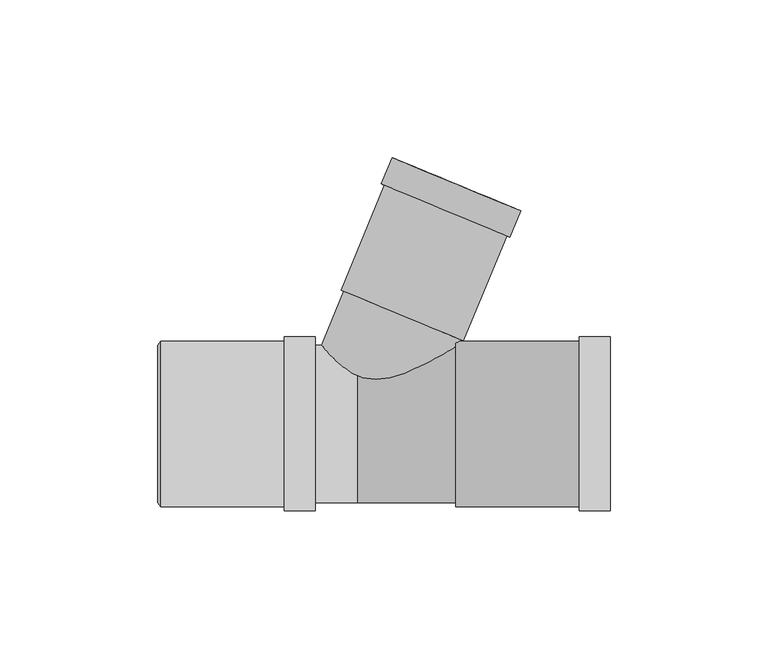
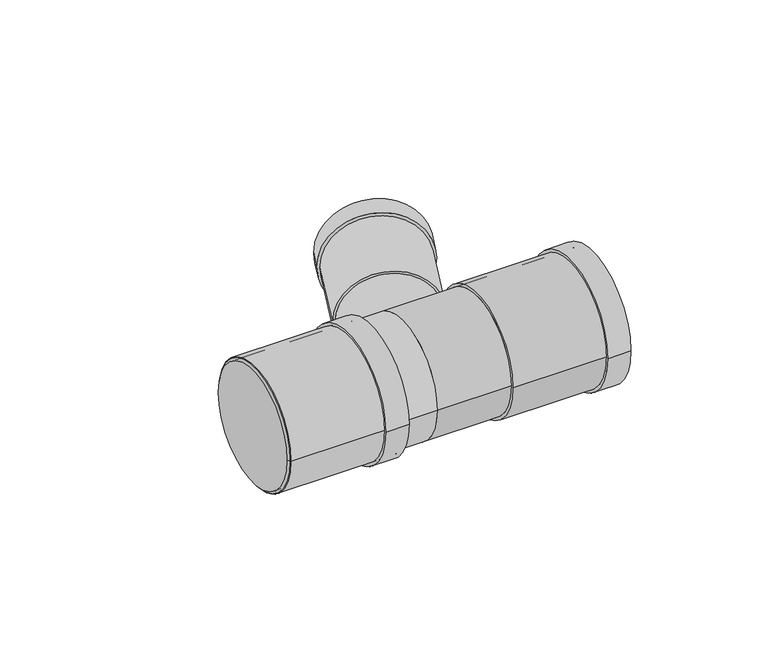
"""IFC4 building model written with IfcOpenShell, lengths in millimetres: pipe fitting geometry, Superdrain HTEA Branch : Superdrain HTEA Branch."""

from ifc_helpers import new_model, si_unit, point, frame, origin, origin_2d, place, context, project, spatial, polyline, circle_curve, trimmed, segment, composite_curve, outline, extrude, source, transform, mapped, element, save
from ifc_brep_helpers import plane_surface, revolved_surface, advanced_brep


def pipe_fitting_50b450b3(model_context):
    return source(origin(), model_context, "Body", "SolidModel", [
        extrude(outline(composite_curve([segment(trimmed(circle_curve(origin_2d(), 26.25), [point((26.25, 0.0))], [point((-26.25, 0.0))], False, "CARTESIAN"), True, "CONTINUOUS"), segment(trimmed(circle_curve(origin_2d(), 26.25), [point((-26.25, 0.0))], [point((26.25, 0.0))], False, "CARTESIAN"), True, "CONTINUOUS")], self_intersect=False), holes=[composite_curve([segment(trimmed(circle_curve(origin_2d(), 25.0), [point((25.0, 0.0))], [point((-25.0, 0.0))], True, "CARTESIAN"), True, "CONTINUOUS"), segment(trimmed(circle_curve(origin_2d(), 25.0), [point((-25.0, 0.0))], [point((25.0, 0.0))], True, "CARTESIAN"), True, "CONTINUOUS")], self_intersect=False)]), frame((-62.3, 0.0, 0.0), z_axis=(1.0, 0.0, 0.0), x_axis=(0.0, 1.0, 0.0)), (0.0, 0.0, 1.0), 49.0),
        extrude(outline(composite_curve([segment(trimmed(circle_curve(origin_2d(), 27.5625), [point((27.5625, 0.0))], [point((-27.5625, 0.0))], False, "CARTESIAN"), True, "CONTINUOUS"), segment(trimmed(circle_curve(origin_2d(), 27.5625), [point((-27.5625, 0.0))], [point((27.5625, 0.0))], False, "CARTESIAN"), True, "CONTINUOUS")], self_intersect=False), holes=[composite_curve([segment(trimmed(circle_curve(origin_2d(), 25.0), [point((25.0, 0.0))], [point((-25.0, 0.0))], True, "CARTESIAN"), True, "CONTINUOUS"), segment(trimmed(circle_curve(origin_2d(), 25.0), [point((-25.0, 0.0))], [point((25.0, 0.0))], True, "CARTESIAN"), True, "CONTINUOUS")], self_intersect=False)]), frame((-23.1, 0.0, 0.0), z_axis=(1.0, 0.0, 0.0), x_axis=(0.0, 1.0, 0.0)), (0.0, 0.0, 1.0), 9.8),
        advanced_brep(
        [(-63.3, 25.0, 0.0), (-63.3, -25.0, 0.0), (-62.3, 26.25, 0.0), (-62.3, -26.25, 0.0)],
        [
            (0, 1, circle_curve(frame((-63.3, 0.0, 0.0), z_axis=(-1.0, 0.0, 0.0), x_axis=(0.0, 1.0000000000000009, 0.0)), 25.0)),
            (1, 0, circle_curve(frame((-63.3, 0.0, 0.0), z_axis=(-1.0, 0.0, 0.0), x_axis=(0.0, -1.0000000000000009, 0.0)), 25.0)),
            (2, 3, circle_curve(frame((-62.3, 0.0, 0.0), z_axis=(1.0, 0.0, 0.0), x_axis=(0.0, -1.0000000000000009, 0.0)), 26.25)),
            (3, 2, circle_curve(frame((-62.3, 0.0, 0.0), z_axis=(1.0, 0.0, 0.0), x_axis=(0.0, 1.0000000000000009, 0.0)), 26.25)),
            (3, 1),
            (0, 2),
        ],
        [
            plane_surface(frame((-63.3, 0.0, 0.0), z_axis=(-1.0, 0.0, 0.0), x_axis=(0.0, 0.0, -1.0))),
            plane_surface(frame((-62.3, 0.0, 0.0), z_axis=(1.0, 0.0, 0.0), x_axis=(0.0, 0.0, -1.0))),
            revolved_surface(polyline([(-63.3, 24.999999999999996, 0.0), (-62.3, 26.25, 0.0)]), (-83.3, 0.0, 0.0), (1.0000000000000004, 0.0, 0.0)),
            revolved_surface(polyline([(-63.3, -24.999999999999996, 0.0), (-62.3, -26.25, 0.0)]), (-83.3, 0.0, 0.0), (1.0000000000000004, 0.0, 0.0)),
        ],
        [
            (0, [[1, 2]]),
            (1, [[3, 4]]),
            (2, [[-4, 5, -1, 6]]),
            (3, [[-3, -6, -2, -5]]),
        ],
    ),
        extrude(outline(composite_curve([segment(trimmed(circle_curve(origin_2d(), 26.25), [point((-26.25, 0.0))], [point((26.25, 0.0))], False, "CARTESIAN"), True, "CONTINUOUS"), segment(trimmed(circle_curve(origin_2d(), 26.25), [point((26.25, 0.0))], [point((-26.25, 0.0))], False, "CARTESIAN"), True, "CONTINUOUS")], self_intersect=False), holes=[composite_curve([segment(trimmed(circle_curve(origin_2d(), 25.0), [point((25.0, 0.0))], [point((-25.0, 0.0))], True, "CARTESIAN"), True, "CONTINUOUS"), segment(trimmed(circle_curve(origin_2d(), 25.0), [point((-25.0, 0.0))], [point((25.0, 0.0))], True, "CARTESIAN"), True, "CONTINUOUS")], self_intersect=False)]), frame((31.2, 0.0, 0.0), z_axis=(1.0, 0.0, 0.0), x_axis=(0.0, 1.0, 0.0)), (0.0, 0.0, 1.0), 49.0),
        extrude(outline(composite_curve([segment(trimmed(circle_curve(origin_2d(), 27.5625), [point((27.5625, 0.0))], [point((-27.5625, 0.0))], False, "CARTESIAN"), True, "CONTINUOUS"), segment(trimmed(circle_curve(origin_2d(), 27.5625), [point((-27.5625, 0.0))], [point((27.5625, 0.0))], False, "CARTESIAN"), True, "CONTINUOUS")], self_intersect=False), holes=[composite_curve([segment(trimmed(circle_curve(origin_2d(), 25.0), [point((25.0, 0.0))], [point((-25.0, 0.0))], True, "CARTESIAN"), True, "CONTINUOUS"), segment(trimmed(circle_curve(origin_2d(), 25.0), [point((-25.0, 0.0))], [point((25.0, 0.0))], True, "CARTESIAN"), True, "CONTINUOUS")], self_intersect=False)]), frame((70.4, 0.0, 0.0), z_axis=(1.0, 0.0, 0.0), x_axis=(0.0, 1.0, 0.0)), (0.0, 0.0, 1.0), 9.8),
        extrude(outline(composite_curve([segment(trimmed(circle_curve(origin_2d(), 20.0), [point((0.0, 20.0))], [point((0.0, -20.0))], False, "CARTESIAN"), True, "CONTINUOUS"), segment(trimmed(circle_curve(origin_2d(), 20.0), [point((0.0, -20.0))], [point((0.0, 20.0))], False, "CARTESIAN"), True, "CONTINUOUS")], self_intersect=False)), frame((0.0, 0.0, 0.0), z_axis=(0.3826834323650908, 0.9238795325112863, 0.0), x_axis=(0.0, 0.0, 1.0)), (0.0, 0.0, 1.0), 37.2),
        extrude(outline(composite_curve([segment(trimmed(circle_curve(origin_2d(), 25.0), [point((25.0, 0.0))], [point((-25.0, 0.0))], False, "CARTESIAN"), True, "CONTINUOUS"), segment(trimmed(circle_curve(origin_2d(), 25.0), [point((-25.0, 0.0))], [point((25.0, 0.0))], False, "CARTESIAN"), True, "CONTINUOUS")], self_intersect=False)), frame((-62.3, 0.0, 0.0), z_axis=(1.0, 0.0, 0.0), x_axis=(0.0, 1.0, 0.0)), (0.0, 0.0, 1.0), 62.3),
        extrude(outline(composite_curve([segment(trimmed(circle_curve(origin_2d(), 25.0), [point((-25.0, 0.0))], [point((25.0, 0.0))], False, "CARTESIAN"), True, "CONTINUOUS"), segment(trimmed(circle_curve(origin_2d(), 25.0), [point((25.0, 0.0))], [point((-25.0, 0.0))], False, "CARTESIAN"), True, "CONTINUOUS")], self_intersect=False)), frame((0.0, 0.0, 0.0), z_axis=(1.0, 0.0, 0.0), x_axis=(0.0, 1.0, 0.0)), (0.0, 0.0, 1.0), 31.2),
        extrude(outline(composite_curve([segment(trimmed(circle_curve(origin_2d(), 22.05), [point((0.0, 22.05))], [point((0.0, -22.0499999))], False, "CARTESIAN"), True, "CONTINUOUS"), segment(trimmed(circle_curve(origin_2d(), 22.05), [point((0.0, -22.0499999))], [point((0.0, 22.05))], False, "CARTESIAN"), True, "CONTINUOUS")], self_intersect=False), holes=[composite_curve([segment(trimmed(circle_curve(origin_2d(), 20.0), [point((0.0, 20.0000001))], [point((0.0, -19.9999999))], True, "CARTESIAN"), True, "CONTINUOUS"), segment(trimmed(circle_curve(origin_2d(), 20.0), [point((0.0, -19.9999999))], [point((0.0, 20.0000001))], True, "CARTESIAN"), True, "CONTINUOUS")], self_intersect=False)]), frame((28.0124272, 67.6279818, 0.0), z_axis=(0.3826834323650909, 0.9238795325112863, 0.0), x_axis=(0.0, 0.0, 1.0)), (0.0, 0.0, 1.0), 9.0),
        extrude(outline(composite_curve([segment(trimmed(circle_curve(origin_2d(), 21.0), [point((0.0, 21.0))], [point((0.0, -21.0))], False, "CARTESIAN"), True, "CONTINUOUS"), segment(trimmed(circle_curve(origin_2d(), 21.0), [point((0.0, -21.0))], [point((0.0, 21.0))], False, "CARTESIAN"), True, "CONTINUOUS")], self_intersect=False), holes=[composite_curve([segment(trimmed(circle_curve(origin_2d(), 20.0), [point((0.0, 19.9999999))], [point((0.0, -20.0000001))], True, "CARTESIAN"), True, "CONTINUOUS"), segment(trimmed(circle_curve(origin_2d(), 20.0), [point((0.0, -20.0000001))], [point((0.0, 19.9999999))], True, "CARTESIAN"), True, "CONTINUOUS")], self_intersect=False)]), frame((14.2358237, 34.3683186, 0.0), z_axis=(0.38268343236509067, 0.9238795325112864, 0.0), x_axis=(0.0, 0.0, 1.0)), (0.0, 0.0, 1.0), 45.0),
    ])


if __name__ == "__main__":
    model = new_model("IFC4")
    model_context = context("Model", 3, world=origin())
    ifc_project = project(units=[si_unit("LENGTHUNIT", "METRE", prefix="MILLI")], contexts=[model_context])
    site = spatial("IfcSite", under=ifc_project)
    building = spatial("IfcBuilding", under=site)
    placement = place(None, origin())
    pipe_fitting_shape = pipe_fitting_50b450b3(model_context)
    element("IfcPipeFitting", 1, ObjectType="Superdrain HTEA Branch : Superdrain HTEA Branch", at=placement, inside=building, context=model_context, shape_type="MappedRepresentation", body=[
        mapped(pipe_fitting_shape, transform((0.0, 0.0, 0.0), x_axis=(1.0, 0.0, 0.0), y_axis=(0.0, 1.0, 0.0), z_axis=(0.0, 0.0, 1.0))),
    ])
    save(model, "model.ifc")
